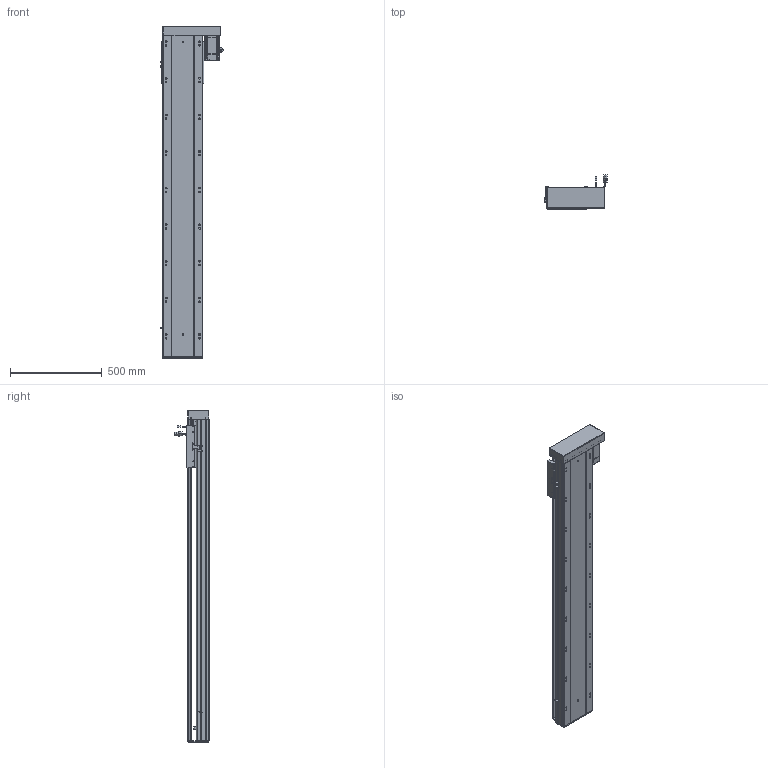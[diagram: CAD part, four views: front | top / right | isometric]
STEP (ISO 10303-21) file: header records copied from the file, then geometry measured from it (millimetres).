
FILE_DESCRIPTION (( 'STEP AP203' ), '1' );
FILE_NAME ('RY220-L2525-800-RK-邧嶺.SLDASM_1400.step', '2022-08-06T08:53:12', ( '' ), ( '' ), 'SwSTEP 2.0', 'SolidWorks 2016', '' );
FILE_SCHEMA (( 'CONFIG_CONTROL_DESIGN' ));
Length unit declared in the file: millimetre
Products named in the file (12): RY220-L2525-800-RK-邧嶺.SLDASM_1400; RY220-800-蛌殏奻裔啣_1400; RY220-俋离672覜茼んえ; RY220蛌殏菁釱-800-邧嶺_1400; 怢湛750W_ECMA-CX0807ES; RY220綴裔啣; RY220半封闭25-32螺母铝滑块; 滅袉蝶18-15; 覜茼ん672; RY220酘衵殏萇儂欶; 滅袉蝶18-10; RY220左右折电机安装板
Assembly tree (15 placements, depth 2):
  RY220-L2525-800-RK-邧嶺.SLDASM_1400
    RY220蛌殏菁釱-800-邧嶺_1400
    RY220-800-蛌殏奻裔啣_1400
    怢湛750W_ECMA-CX0807ES
    滅袉蝶18-10  x2
    RY220-俋离672覜茼んえ
    覜茼ん672  x3
    RY220綴裔啣
    RY220半封闭25-32螺母铝滑块
    滅袉蝶18-15  x2
    RY220左右折电机安装板
    RY220酘衵殏萇儂欶
Bounding box: 347.44 x 187.27 x 1814 mm (x, y, z)
Volume: 14327263.6 mm3; surface area: 4285025.9 mm2
Topology: 16 solids, 16 shells, 2259 faces, 6232 edges, 3923 vertices
Faces by surface type: cylinder 1031, plane 904, cone 254, bspline 44, sphere 16, torus 10
Entity records: 74467 total; most frequent: CARTESIAN_POINT 21455, ORIENTED_EDGE 10984, DIRECTION 10400, EDGE_CURVE 5492, AXIS2_PLACEMENT_3D 3673, VERTEX_POINT 3579, VECTOR 3054, LINE 3054
